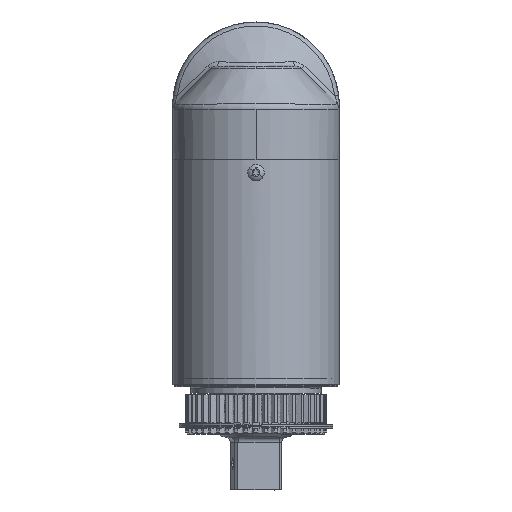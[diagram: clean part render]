
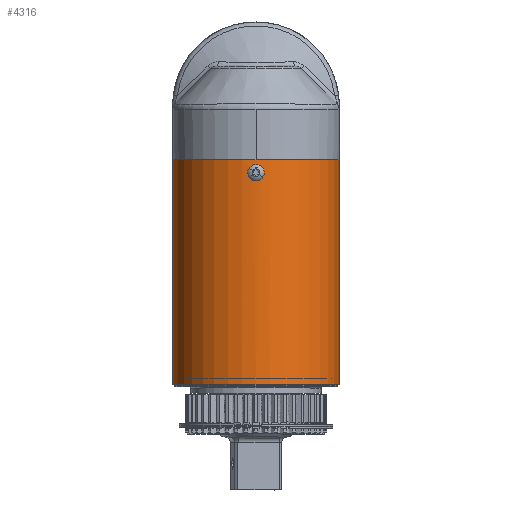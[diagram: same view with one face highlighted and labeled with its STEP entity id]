
A CAD part, top view. The second image highlights one B-rep face of the part: STEP entity #4316.
In plain terms, the highlighted cylindrical face has radius 33.655 mm (diameter 67.31 mm), a partial arc.
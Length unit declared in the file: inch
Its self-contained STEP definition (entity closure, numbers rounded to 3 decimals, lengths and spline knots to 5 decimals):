
#1190 = EDGE_CURVE ( 'NONE', #20434, #99791, #40673, .T. ) ;
#1576 = CARTESIAN_POINT ( 'NONE',  ( 0.02019, -1.00824, 4.32861 ) ) ;
#2141 = CARTESIAN_POINT ( 'NONE',  ( -0.0516, -1.02504, 4.32775 ) ) ;
#2352 = DIRECTION ( 'NONE',  ( 0., 1., 0. ) ) ;
#2715 = CARTESIAN_POINT ( 'NONE',  ( 0., -1.00575, 4.32875 ) ) ;
#3826 = FACE_BOUND ( 'NONE', #65741, .T. ) ;
#4100 = EDGE_CURVE ( 'NONE', #70687, #69166, #74246, .T. ) ;
#4316 = ADVANCED_FACE ( 'NONE', ( #47191, #3826 ), #7762, .T. ) ;
#6511 = CARTESIAN_POINT ( 'NONE',  ( 0., -0.87875, 3.00375 ) ) ;
#7762 = CYLINDRICAL_SURFACE ( 'NONE', #36107, 1.325 ) ;
#8041 = B_SPLINE_CURVE_WITH_KNOTS ( 'NONE', 3,
 ( #35808, #90479, #96771, #20395, #37491, #81387, #71135, #38060, #98446, #71708, #18701, #36936, #44937, #89346, #12393, #10691, #80241, #79122, #105877, #45489, #106996, #2141, #19820, #106435, #54585, #97328, #28363, #105313 ),
 .UNSPECIFIED., .F., .F.,
 ( 4, 2, 2, 2, 2, 2, 2, 2, 2, 2, 2, 2, 2, 4 ),
 ( 0.00619, 0.00697, 0.00774, 0.00813, 0.00852, 0.0089, 0.00929, 0.00968, 0.01007, 0.01045, 0.01084, 0.01123, 0.01162, 0.01239 ),
 .UNSPECIFIED. ) ;
#10494 = CARTESIAN_POINT ( 'NONE',  ( 1.325, -4.46125, 3.00375 ) ) ;
#10691 = CARTESIAN_POINT ( 'NONE',  ( -0.07553, -1.06362, 4.3266 ) ) ;
#11049 = VERTEX_POINT ( 'NONE', #26655 ) ;
#11268 = CARTESIAN_POINT ( 'NONE',  ( 0.02515, -1.00974, 4.32852 ) ) ;
#12393 = CARTESIAN_POINT ( 'NONE',  ( -0.0775, -1.07359, 4.32648 ) ) ;
#12950 = CARTESIAN_POINT ( 'NONE',  ( 0.00003, -1.16175, 4.32875 ) ) ;
#14067 = CARTESIAN_POINT ( 'NONE',  ( 0.06769, -1.12284, 4.32702 ) ) ;
#14215 = EDGE_CURVE ( 'NONE', #69166, #70687, #8041, .T. ) ;
#14826 = VECTOR ( 'NONE', #88259, 39.37008 ) ;
#17034 = LINE ( 'NONE', #68905, #14826 ) ;
#18331 = CARTESIAN_POINT ( 'NONE',  ( 0., -4.46125, 3.00375 ) ) ;
#18701 = CARTESIAN_POINT ( 'NONE',  ( -0.07549, -1.10401, 4.3266 ) ) ;
#19263 = CARTESIAN_POINT ( 'NONE',  ( 0.07551, -1.10397, 4.3266 ) ) ;
#19820 = CARTESIAN_POINT ( 'NONE',  ( -0.04768, -1.02181, 4.3279 ) ) ;
#20395 = CARTESIAN_POINT ( 'NONE',  ( -0.0392, -1.15195, 4.3282 ) ) ;
#20434 = VERTEX_POINT ( 'NONE', #55132 ) ;
#21522 = CARTESIAN_POINT ( 'NONE',  ( 0.06204, -1.1313, 4.3273 ) ) ;
#22255 = AXIS2_PLACEMENT_3D ( 'NONE', #18331, #2352, #71920 ) ;
#25417 = DIRECTION ( 'NONE',  ( 0., -1., 0. ) ) ;
#26655 = CARTESIAN_POINT ( 'NONE',  ( 1.325, -0.87875, 3.00375 ) ) ;
#27815 = CARTESIAN_POINT ( 'NONE',  ( 0.07594, -1.06327, 4.32658 ) ) ;
#28363 = CARTESIAN_POINT ( 'NONE',  ( -0.01031, -1.00575, 4.32875 ) ) ;
#28921 = CARTESIAN_POINT ( 'NONE',  ( 0.03459, -1.01365, 4.32831 ) ) ;
#31548 = CARTESIAN_POINT ( 'NONE',  ( -1.325, -0.87875, 3.00375 ) ) ;
#35808 = CARTESIAN_POINT ( 'NONE',  ( 0.00003, -1.16175, 4.32875 ) ) ;
#36107 = AXIS2_PLACEMENT_3D ( 'NONE', #101810, #25417, #49982 ) ;
#36360 = CARTESIAN_POINT ( 'NONE',  ( 0.05156, -1.025, 4.32775 ) ) ;
#36936 = CARTESIAN_POINT ( 'NONE',  ( -0.07749, -1.09404, 4.32648 ) ) ;
#37491 = CARTESIAN_POINT ( 'NONE',  ( -0.0479, -1.14614, 4.3279 ) ) ;
#38060 = CARTESIAN_POINT ( 'NONE',  ( -0.06767, -1.12288, 4.32702 ) ) ;
#39596 = EDGE_CURVE ( 'NONE', #11049, #42285, #17034, .T. ) ;
#40673 = LINE ( 'NONE', #31548, #50673 ) ;
#41529 = EDGE_CURVE ( 'NONE', #99791, #42285, #58710, .T. ) ;
#41732 = ORIENTED_EDGE ( 'NONE', *, *, #66474, .F. ) ;
#42285 = VERTEX_POINT ( 'NONE', #10494 ) ;
#44376 = CARTESIAN_POINT ( 'NONE',  ( 0.04755, -1.02171, 4.3279 ) ) ;
#44937 = CARTESIAN_POINT ( 'NONE',  ( -0.07799, -1.08897, 4.32645 ) ) ;
#45489 = CARTESIAN_POINT ( 'NONE',  ( -0.06209, -1.03626, 4.3273 ) ) ;
#46072 = CARTESIAN_POINT ( 'NONE',  ( 0.07799, -1.07353, 4.32645 ) ) ;
#47191 = FACE_OUTER_BOUND ( 'NONE', #84273, .T. ) ;
#49982 = DIRECTION ( 'NONE',  ( -1., 0., 0. ) ) ;
#50673 = VECTOR ( 'NONE', #110702, 39.37008 ) ;
#53739 = CARTESIAN_POINT ( 'NONE',  ( 0.00003, -1.16175, 4.32875 ) ) ;
#54043 = CARTESIAN_POINT ( 'NONE',  ( 0.07403, -1.10883, 4.32668 ) ) ;
#54585 = CARTESIAN_POINT ( 'NONE',  ( -0.03462, -1.01367, 4.32831 ) ) ;
#55132 = CARTESIAN_POINT ( 'NONE',  ( -1.325, -0.87875, 3.00375 ) ) ;
#56278 = CARTESIAN_POINT ( 'NONE',  ( 0.05154, -1.14252, 4.32775 ) ) ;
#58193 = ORIENTED_EDGE ( 'NONE', *, *, #1190, .T. ) ;
#58541 = ORIENTED_EDGE ( 'NONE', *, *, #4100, .T. ) ;
#58710 = CIRCLE ( 'NONE', #22255, 1.325 ) ;
#61462 = CARTESIAN_POINT ( 'NONE',  ( 0.00515, -1.00575, 4.32875 ) ) ;
#62073 = CARTESIAN_POINT ( 'NONE',  ( 0., -1.00575, 4.32875 ) ) ;
#62462 = CARTESIAN_POINT ( 'NONE',  ( -1.325, -4.46125, 3.00375 ) ) ;
#62599 = CARTESIAN_POINT ( 'NONE',  ( 0.078, -1.0888, 4.32645 ) ) ;
#64841 = CARTESIAN_POINT ( 'NONE',  ( 0.01029, -1.16124, 4.32872 ) ) ;
#65741 = EDGE_LOOP ( 'NONE', ( #58541, #101865 ) ) ;
#66474 = EDGE_CURVE ( 'NONE', #20434, #11049, #70188, .T. ) ;
#68905 = CARTESIAN_POINT ( 'NONE',  ( 1.325, -0.87875, 3.00375 ) ) ;
#69166 = VERTEX_POINT ( 'NONE', #53739 ) ;
#69938 = AXIS2_PLACEMENT_3D ( 'NONE', #6511, #110783, #85173 ) ;
#70188 = CIRCLE ( 'NONE', #69938, 1.325 ) ;
#70687 = VERTEX_POINT ( 'NONE', #62073 ) ;
#71135 = CARTESIAN_POINT ( 'NONE',  ( -0.062, -1.13136, 4.3273 ) ) ;
#71137 = CARTESIAN_POINT ( 'NONE',  ( 0.06816, -1.0445, 4.327 ) ) ;
#71708 = CARTESIAN_POINT ( 'NONE',  ( -0.07399, -1.10897, 4.32668 ) ) ;
#71920 = DIRECTION ( 'NONE',  ( 1., 0., 0. ) ) ;
#73401 = CARTESIAN_POINT ( 'NONE',  ( 0.02515, -1.15776, 4.32852 ) ) ;
#74246 = B_SPLINE_CURVE_WITH_KNOTS ( 'NONE', 3,
 ( #2715, #61462, #89348, #1576, #11268, #28921, #87676, #44376, #36360, #105879, #71137, #27815, #46072, #62599, #97330, #19263, #54043, #80822, #14067, #21522, #81389, #56278, #91033, #75068, #109242, #73401, #109807, #64841, #74516, #12950 ),
 .UNSPECIFIED., .F., .F.,
 ( 4, 2, 2, 2, 2, 2, 2, 2, 2, 2, 2, 2, 2, 2, 4 ),
 ( 0., 0.00039, 0.00077, 0.00116, 0.00155, 0.00232, 0.0031, 0.00348, 0.00387, 0.00426, 0.00465, 0.00503, 0.00542, 0.00581, 0.00619 ),
 .UNSPECIFIED. ) ;
#74516 = CARTESIAN_POINT ( 'NONE',  ( 0.00512, -1.16175, 4.32875 ) ) ;
#75068 = CARTESIAN_POINT ( 'NONE',  ( 0.03915, -1.1514, 4.32818 ) ) ;
#79122 = CARTESIAN_POINT ( 'NONE',  ( -0.07013, -1.04922, 4.32689 ) ) ;
#80241 = CARTESIAN_POINT ( 'NONE',  ( -0.07404, -1.05868, 4.32668 ) ) ;
#80822 = CARTESIAN_POINT ( 'NONE',  ( 0.07013, -1.11828, 4.32689 ) ) ;
#81387 = CARTESIAN_POINT ( 'NONE',  ( -0.0587, -1.13537, 4.32745 ) ) ;
#81389 = CARTESIAN_POINT ( 'NONE',  ( 0.05882, -1.13524, 4.32745 ) ) ;
#84273 = EDGE_LOOP ( 'NONE', ( #88539, #41732, #58193, #93382 ) ) ;
#85173 = DIRECTION ( 'NONE',  ( 1., 0., 0. ) ) ;
#87676 = CARTESIAN_POINT ( 'NONE',  ( 0.03907, -1.01605, 4.32818 ) ) ;
#88259 = DIRECTION ( 'NONE',  ( 0., -1., 0. ) ) ;
#88539 = ORIENTED_EDGE ( 'NONE', *, *, #39596, .F. ) ;
#89346 = CARTESIAN_POINT ( 'NONE',  ( -0.07801, -1.07868, 4.32645 ) ) ;
#89348 = CARTESIAN_POINT ( 'NONE',  ( 0.01022, -1.00626, 4.32872 ) ) ;
#90479 = CARTESIAN_POINT ( 'NONE',  ( -0.01015, -1.16175, 4.32875 ) ) ;
#91033 = CARTESIAN_POINT ( 'NONE',  ( 0.0476, -1.14575, 4.3279 ) ) ;
#93382 = ORIENTED_EDGE ( 'NONE', *, *, #41529, .T. ) ;
#96771 = CARTESIAN_POINT ( 'NONE',  ( -0.02042, -1.15971, 4.32863 ) ) ;
#97328 = CARTESIAN_POINT ( 'NONE',  ( -0.02055, -1.00782, 4.32862 ) ) ;
#97330 = CARTESIAN_POINT ( 'NONE',  ( 0.0775, -1.09396, 4.32648 ) ) ;
#98446 = CARTESIAN_POINT ( 'NONE',  ( -0.07007, -1.1184, 4.3269 ) ) ;
#99791 = VERTEX_POINT ( 'NONE', #62462 ) ;
#101810 = CARTESIAN_POINT ( 'NONE',  ( 0., -0.87875, 3.00375 ) ) ;
#101865 = ORIENTED_EDGE ( 'NONE', *, *, #14215, .T. ) ;
#105313 = CARTESIAN_POINT ( 'NONE',  ( 0., -1.00575, 4.32875 ) ) ;
#105877 = CARTESIAN_POINT ( 'NONE',  ( -0.06773, -1.04474, 4.32702 ) ) ;
#105879 = CARTESIAN_POINT ( 'NONE',  ( 0.06235, -1.0358, 4.3273 ) ) ;
#106435 = CARTESIAN_POINT ( 'NONE',  ( -0.03917, -1.0161, 4.32818 ) ) ;
#106996 = CARTESIAN_POINT ( 'NONE',  ( -0.05879, -1.03224, 4.32745 ) ) ;
#109242 = CARTESIAN_POINT ( 'NONE',  ( 0.0346, -1.15385, 4.32831 ) ) ;
#109807 = CARTESIAN_POINT ( 'NONE',  ( 0.02028, -1.15924, 4.3286 ) ) ;
#110702 = DIRECTION ( 'NONE',  ( 0., -1., 0. ) ) ;
#110783 = DIRECTION ( 'NONE',  ( 0., 1., 0. ) ) ;
